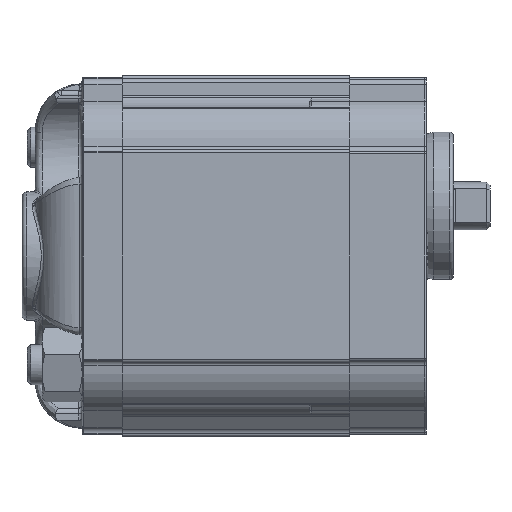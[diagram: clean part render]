
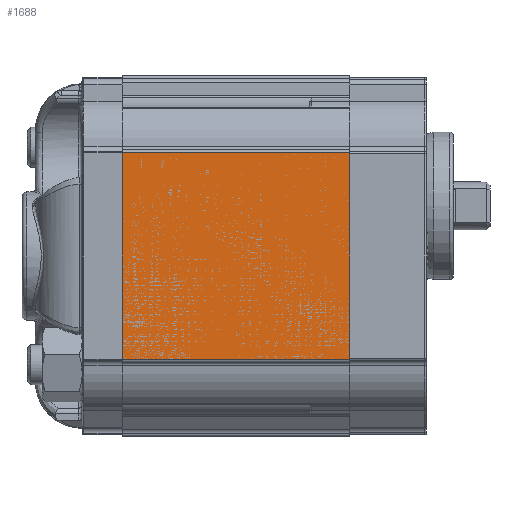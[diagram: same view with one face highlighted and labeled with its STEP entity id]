
A CAD part, left-side view. The second image highlights one B-rep face of the part: STEP entity #1688.
In plain terms, the highlighted planar face has unit normal (-1, 0, 0) as drawn and (1, 0, 0) by its records, which use the part's own axes.
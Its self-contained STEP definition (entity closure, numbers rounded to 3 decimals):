
#1688 = ADVANCED_FACE( '', ( #3932 ), #3933, .T. );
#3932 = FACE_OUTER_BOUND( '', #7768, .T. );
#3933 = PLANE( '', #7769 );
#7768 = EDGE_LOOP( '', ( #13952, #13953, #13954, #13955 ) );
#7769 = AXIS2_PLACEMENT_3D( '', #13956, #13957, #13958 );
#13952 = ORIENTED_EDGE( '', *, *, #19802, .F. );
#13953 = ORIENTED_EDGE( '', *, *, #20346, .F. );
#13954 = ORIENTED_EDGE( '', *, *, #18733, .T. );
#13955 = ORIENTED_EDGE( '', *, *, #18851, .T. );
#13956 = CARTESIAN_POINT( '', ( 25., 34., -15.418 ) );
#13957 = DIRECTION( '', ( 1., 0., 0. ) );
#13958 = DIRECTION( '', ( 0., 0., -1. ) );
#18733 = EDGE_CURVE( '', #22124, #22122, #22125, .T. );
#18851 = EDGE_CURVE( '', #22122, #22333, #22336, .T. );
#19802 = EDGE_CURVE( '', #23877, #22333, #23879, .T. );
#20346 = EDGE_CURVE( '', #22124, #23877, #24636, .T. );
#22122 = VERTEX_POINT( '', #27246 );
#22124 = VERTEX_POINT( '', #27248 );
#22125 = LINE( '', #27249, #27250 );
#22333 = VERTEX_POINT( '', #27698 );
#22336 = LINE( '', #27701, #27702 );
#23877 = VERTEX_POINT( '', #30714 );
#23879 = LINE( '', #30716, #30717 );
#24636 = LINE( '', #32775, #32776 );
#27246 = CARTESIAN_POINT( '', ( 25., 34., 15.418 ) );
#27248 = CARTESIAN_POINT( '', ( 25., 34., -15.418 ) );
#27249 = CARTESIAN_POINT( '', ( 25., 34., -15.418 ) );
#27250 = VECTOR( '', #36253, 1000. );
#27698 = CARTESIAN_POINT( '', ( 25., 0., 15.418 ) );
#27701 = CARTESIAN_POINT( '', ( 25., 34., 15.418 ) );
#27702 = VECTOR( '', #36443, 1000. );
#30714 = CARTESIAN_POINT( '', ( 25., 0., -15.418 ) );
#30716 = CARTESIAN_POINT( '', ( 25., 0., -15.418 ) );
#30717 = VECTOR( '', #37723, 1000. );
#32775 = CARTESIAN_POINT( '', ( 25., 34., -15.418 ) );
#32776 = VECTOR( '', #38338, 1000. );
#36253 = DIRECTION( '', ( 0., 0., 1. ) );
#36443 = DIRECTION( '', ( 0., -1., 0. ) );
#37723 = DIRECTION( '', ( 0., 0., 1. ) );
#38338 = DIRECTION( '', ( 0., -1., 0. ) );
